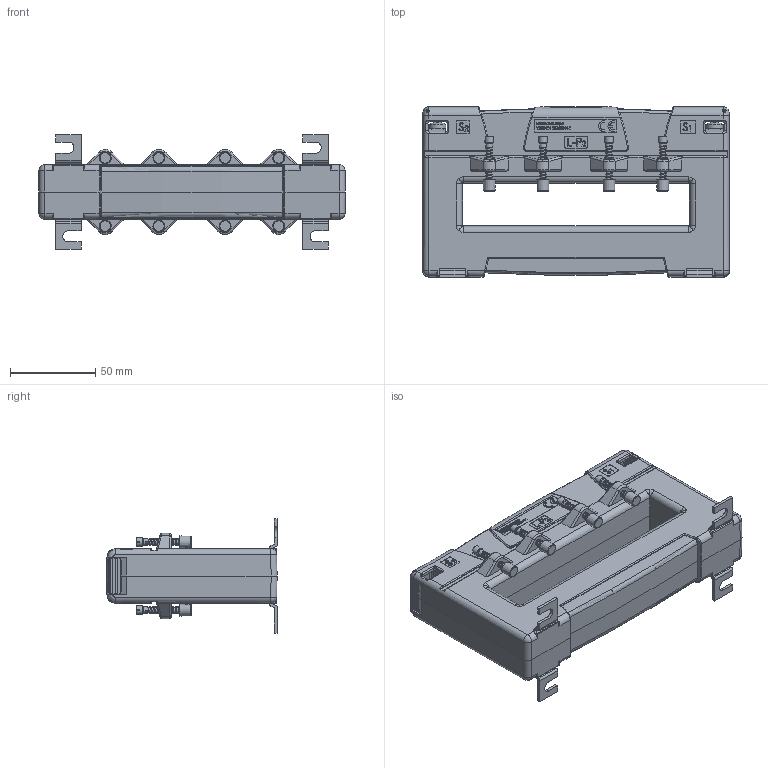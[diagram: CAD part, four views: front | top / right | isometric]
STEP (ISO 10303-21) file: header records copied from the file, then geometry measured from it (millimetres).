
FILE_DESCRIPTION(/* description */ (''),/* implementation_level */ '2;1');
FILE_NAME(/* name */ 'ASK130.3.stp',/* time_stamp */ '2024-03-04T14:57:07+01:00',/* author */ ('JDI'),/* organization */ (''),/* preprocessor_version */ 'ST-DEVELOPER v19.2',/* originating_system */ 'Autodesk Inventor 2023',/* authorisation */ '');
FILE_SCHEMA (('AUTOMOTIVE_DESIGN { 1 0 10303 214 3 1 1 }'));
Products named in the file (1): ASK130_3
Bounding box: 180 x 100.15 x 67 mm (x, y, z)
Volume: 447252.2 mm3; surface area: 72632.7 mm2
Topology: 1 solids, 1 shells, 2438 faces, 6564 edges, 4210 vertices
Faces by surface type: plane 1178, cylinder 650, bspline 432, cone 98, torus 58, sphere 22
Full cylindrical faces by diameter (mm): 1.5 x4, 3 x108, 3.75 x24, 3.8 x14, 4 x48, 4.1 x8, 4.2 x2, 5 x10, 5.8 x8, 10 x2
Entity records: 125611 total; most frequent: CARTESIAN_POINT 65703, ORIENTED_EDGE 13108, DIRECTION 10250, EDGE_CURVE 6554, VERTEX_POINT 4210, LINE 3828, VECTOR 3828, AXIS2_PLACEMENT_3D 3211
